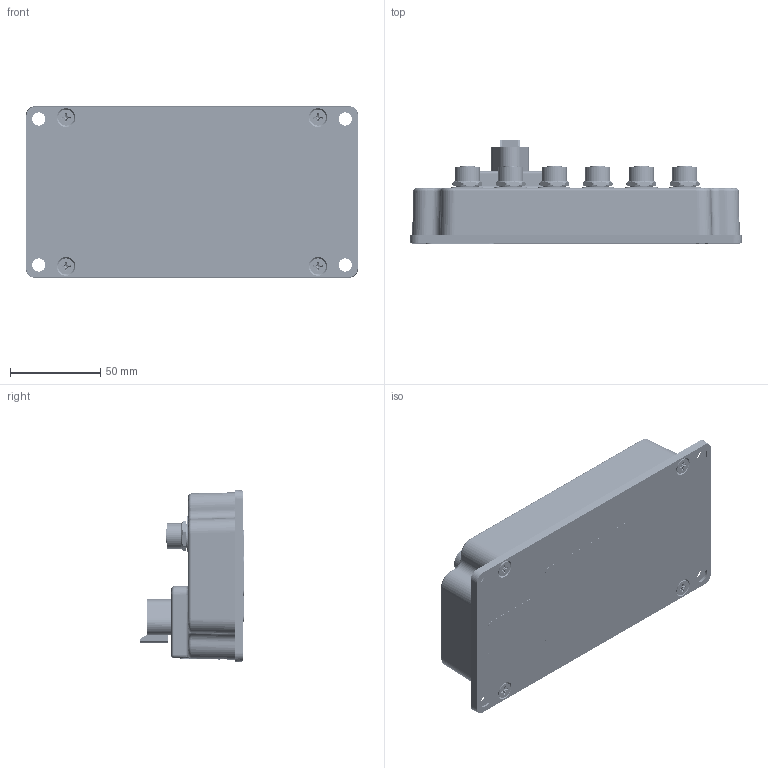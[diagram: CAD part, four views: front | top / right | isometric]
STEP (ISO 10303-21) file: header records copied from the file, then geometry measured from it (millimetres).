
FILE_DESCRIPTION(/* description */ (''),/* implementation_level */ '2;1');
FILE_NAME(/* name */ 'S:\Projects\6-PORT-ETH-SW-AXIO, AX140700C, Proj_20144\UNIT ASSEMBLY\RELEASED\A\AX140700C.stp',/* time_stamp */ '2023-06-12T14:45:22-04:00',/* author */ ('tfisher'),/* organization */ (''),/* preprocessor_version */ 'ST-DEVELOPER v18.1',/* originating_system */ 'Autodesk Inventor 2021',/* authorisation */ '');
FILE_SCHEMA (('AUTOMOTIVE_DESIGN { 1 0 10303 214 3 1 1 }'));
Products named in the file (1): FG-AX140700C for STEP_Shrinkwrap_1
Bounding box: 184.15 x 57.31 x 95.25 mm (x, y, z)
Volume: 200876.6 mm3; surface area: 122814.7 mm2
Topology: 1 solids, 14 shells, 6005 faces, 16285 edges, 10810 vertices
Faces by surface type: plane 3108, bspline 1459, cylinder 1061, cone 271, torus 106
Full cylindrical faces by diameter (mm): 0.8 x48, 1.3 x48, 2 x6, 2.2 x6, 2.286 x6, 2.642 x13, 3.251 x7, 3.48 x4, 3.505 x4, 4.14 x4, 4.318 x4, 5 x4, 8.15 x6, 8.357 x6, 8.9 x4, 10.92 x6, 14 x6
Entity records: 222122 total; most frequent: CARTESIAN_POINT 72368, ORIENTED_EDGE 32434, DIRECTION 25342, EDGE_CURVE 16217, VERTEX_POINT 10810, LINE 9990, VECTOR 9990, AXIS2_PLACEMENT_3D 7676
